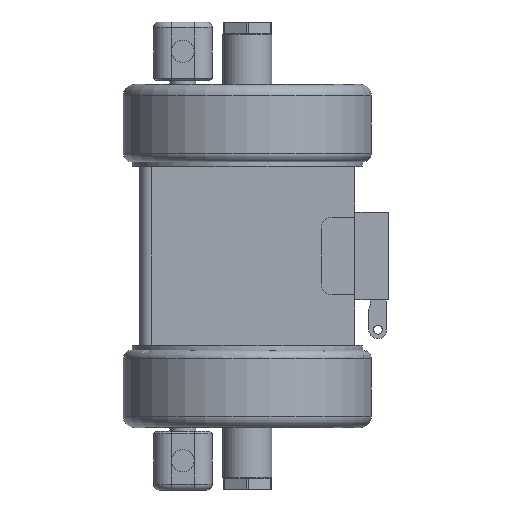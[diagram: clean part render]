
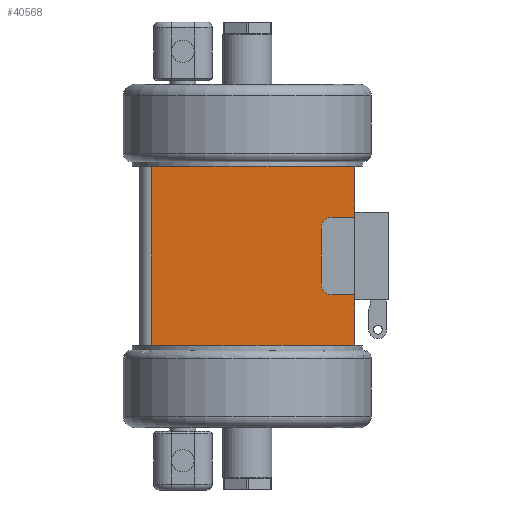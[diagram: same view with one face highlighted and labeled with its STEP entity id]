
A CAD part, left-side view. The second image highlights one B-rep face of the part: STEP entity #40568.
In plain terms, the highlighted planar face has unit normal (-1, 0, 0).
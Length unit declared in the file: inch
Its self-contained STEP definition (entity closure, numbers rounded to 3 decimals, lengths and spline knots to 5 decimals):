
#1214 = CARTESIAN_POINT ( 'NONE',  ( -2.382, -2.382, -0.8575 ) ) ;
#1216 = DIRECTION ( 'NONE',  ( 0., -1., 0. ) ) ;
#1333 = DIRECTION ( 'NONE',  ( 0., 0., -1. ) ) ;
#1352 = CARTESIAN_POINT ( 'NONE',  ( -2.382, 2.132, -1.974 ) ) ;
#1386 = CARTESIAN_POINT ( 'NONE',  ( -2.382, 2.382, -1.974 ) ) ;
#1394 = DIRECTION ( 'NONE',  ( 0., 1., 0. ) ) ;
#1395 = DIRECTION ( 'NONE',  ( 0., -1., 0. ) ) ;
#1399 = CARTESIAN_POINT ( 'NONE',  ( -2.382, -2.382, 1.974 ) ) ;
#2358 = CARTESIAN_POINT ( 'NONE',  ( -2.382, -2.382, 1.974 ) ) ;
#2377 = CARTESIAN_POINT ( 'NONE',  ( -2.382, -2.382, 0.975 ) ) ;
#2631 = AXIS2_PLACEMENT_3D ( 'NONE', #41956, #41957, #41959 ) ;
#2635 = AXIS2_PLACEMENT_3D ( 'NONE', #36319, #36320, #36321 ) ;
#8772 = VERTEX_POINT ( 'NONE', #20190 ) ;
#9652 = AXIS2_PLACEMENT_3D ( 'NONE', #19989, #19999, #20001 ) ;
#11043 = CARTESIAN_POINT ( 'NONE',  ( -2.382, -2.382, 1.974 ) ) ;
#11053 = DIRECTION ( 'NONE',  ( 0., 0., -1. ) ) ;
#11143 = CARTESIAN_POINT ( 'NONE',  ( -2.382, -2.382, 1.974 ) ) ;
#11145 = DIRECTION ( 'NONE',  ( 0., 0., -1. ) ) ;
#11389 = EDGE_CURVE ( 'NONE', #41510, #41521, #38798, .T. ) ;
#11409 = EDGE_CURVE ( 'NONE', #20890, #20895, #38838, .T. ) ;
#11893 = EDGE_CURVE ( 'NONE', #17158, #17161, #30491, .T. ) ;
#11957 = EDGE_CURVE ( 'NONE', #17163, #17165, #30600, .T. ) ;
#12013 = EDGE_CURVE ( 'NONE', #17156, #17153, #30690, .T. ) ;
#12023 = EDGE_CURVE ( 'NONE', #17156, #17154, #30709, .T. ) ;
#12049 = EDGE_CURVE ( 'NONE', #17152, #20895, #30738, .T. ) ;
#12060 = EDGE_CURVE ( 'NONE', #17164, #17163, #30755, .T. ) ;
#12085 = EDGE_CURVE ( 'NONE', #17164, #41521, #30802, .T. ) ;
#12088 = EDGE_CURVE ( 'NONE', #17165, #17158, #30805, .T. ) ;
#12091 = EDGE_CURVE ( 'NONE', #17159, #20890, #30807, .T. ) ;
#12148 = EDGE_CURVE ( 'NONE', #17152, #17150, #30900, .T. ) ;
#12183 = EDGE_CURVE ( 'NONE', #17161, #17159, #30955, .T. ) ;
#12216 = EDGE_CURVE ( 'NONE', #17154, #8772, #31003, .T. ) ;
#12230 = EDGE_CURVE ( 'NONE', #8772, #17150, #31022, .T. ) ;
#12234 = EDGE_CURVE ( 'NONE', #41510, #17153, #31032, .T. ) ;
#17139 = ORIENTED_EDGE ( 'NONE', *, *, #12183, .F. ) ;
#17140 = ORIENTED_EDGE ( 'NONE', *, *, #11893, .F. ) ;
#17141 = ORIENTED_EDGE ( 'NONE', *, *, #12088, .F. ) ;
#17142 = ORIENTED_EDGE ( 'NONE', *, *, #11957, .F. ) ;
#17143 = ORIENTED_EDGE ( 'NONE', *, *, #12060, .F. ) ;
#17144 = ORIENTED_EDGE ( 'NONE', *, *, #12085, .T. ) ;
#17145 = ORIENTED_EDGE ( 'NONE', *, *, #11389, .F. ) ;
#17146 = ORIENTED_EDGE ( 'NONE', *, *, #12234, .T. ) ;
#17150 = VERTEX_POINT ( 'NONE', #24909 ) ;
#17152 = VERTEX_POINT ( 'NONE', #24910 ) ;
#17153 = VERTEX_POINT ( 'NONE', #24918 ) ;
#17154 = VERTEX_POINT ( 'NONE', #24911 ) ;
#17156 = VERTEX_POINT ( 'NONE', #24921 ) ;
#17158 = VERTEX_POINT ( 'NONE', #24924 ) ;
#17159 = VERTEX_POINT ( 'NONE', #24926 ) ;
#17161 = VERTEX_POINT ( 'NONE', #24929 ) ;
#17163 = VERTEX_POINT ( 'NONE', #24931 ) ;
#17164 = VERTEX_POINT ( 'NONE', #24932 ) ;
#17165 = VERTEX_POINT ( 'NONE', #24933 ) ;
#19987 = PLANE ( 'NONE',  #9652 ) ;
#19989 = CARTESIAN_POINT ( 'NONE',  ( -2.382, 2.382, -1.974 ) ) ;
#19999 = DIRECTION ( 'NONE',  ( -1., 0., 0. ) ) ;
#20001 = DIRECTION ( 'NONE',  ( 0., 0., 1. ) ) ;
#20190 = CARTESIAN_POINT ( 'NONE',  ( -2.382, 2.132, -1.974 ) ) ;
#20890 = VERTEX_POINT ( 'NONE', #27275 ) ;
#20895 = VERTEX_POINT ( 'NONE', #27284 ) ;
#24909 = CARTESIAN_POINT ( 'NONE',  ( -2.382, 0.92556, -1.974 ) ) ;
#24910 = CARTESIAN_POINT ( 'NONE',  ( -2.382, -0.92556, -1.974 ) ) ;
#24911 = CARTESIAN_POINT ( 'NONE',  ( -2.382, 2.132, 1.974 ) ) ;
#24918 = CARTESIAN_POINT ( 'NONE',  ( -2.382, -0.92556, 1.974 ) ) ;
#24921 = CARTESIAN_POINT ( 'NONE',  ( -2.382, 0.92556, 1.974 ) ) ;
#24924 = CARTESIAN_POINT ( 'NONE',  ( -2.382, -1.632, -0.6075 ) ) ;
#24926 = CARTESIAN_POINT ( 'NONE',  ( -2.382, -2.382, -0.8575 ) ) ;
#24929 = CARTESIAN_POINT ( 'NONE',  ( -2.382, -1.882, -0.8575 ) ) ;
#24931 = CARTESIAN_POINT ( 'NONE',  ( -2.382, -1.882, 0.8575 ) ) ;
#24932 = CARTESIAN_POINT ( 'NONE',  ( -2.382, -2.382, 0.8575 ) ) ;
#24933 = CARTESIAN_POINT ( 'NONE',  ( -2.382, -1.632, 0.6075 ) ) ;
#27275 = CARTESIAN_POINT ( 'NONE',  ( -2.382, -2.382, -0.975 ) ) ;
#27284 = CARTESIAN_POINT ( 'NONE',  ( -2.382, -2.382, -1.974 ) ) ;
#30309 = FACE_OUTER_BOUND ( 'NONE', #40243, .T. ) ;
#30491 = CIRCLE ( 'NONE', #2631, 0.25 ) ;
#30600 = CIRCLE ( 'NONE', #2635, 0.25 ) ;
#30690 = LINE ( 'NONE', #36482, #30695 ) ;
#30695 = VECTOR ( 'NONE', #36525, 39.37008 ) ;
#30709 = LINE ( 'NONE', #36550, #30711 ) ;
#30711 = VECTOR ( 'NONE', #36549, 39.37008 ) ;
#30738 = LINE ( 'NONE', #36675, #30748 ) ;
#30748 = VECTOR ( 'NONE', #36688, 39.37008 ) ;
#30755 = LINE ( 'NONE', #36769, #30761 ) ;
#30761 = VECTOR ( 'NONE', #36771, 39.37008 ) ;
#30800 = VECTOR ( 'NONE', #36879, 39.37008 ) ;
#30802 = LINE ( 'NONE', #36852, #30800 ) ;
#30805 = LINE ( 'NONE', #36885, #30808 ) ;
#30807 = LINE ( 'NONE', #36880, #30814 ) ;
#30808 = VECTOR ( 'NONE', #36886, 39.37008 ) ;
#30814 = VECTOR ( 'NONE', #36891, 39.37008 ) ;
#30900 = LINE ( 'NONE', #37116, #30904 ) ;
#30904 = VECTOR ( 'NONE', #37125, 39.37008 ) ;
#30955 = LINE ( 'NONE', #1214, #30958 ) ;
#30958 = VECTOR ( 'NONE', #1216, 39.37008 ) ;
#31003 = LINE ( 'NONE', #1352, #31005 ) ;
#31005 = VECTOR ( 'NONE', #1333, 39.37008 ) ;
#31022 = LINE ( 'NONE', #1386, #31027 ) ;
#31027 = VECTOR ( 'NONE', #1395, 39.37008 ) ;
#31032 = LINE ( 'NONE', #1399, #31034 ) ;
#31034 = VECTOR ( 'NONE', #1394, 39.37008 ) ;
#32514 = ORIENTED_EDGE ( 'NONE', *, *, #12013, .F. ) ;
#32515 = ORIENTED_EDGE ( 'NONE', *, *, #12023, .T. ) ;
#32516 = ORIENTED_EDGE ( 'NONE', *, *, #12216, .T. ) ;
#32517 = ORIENTED_EDGE ( 'NONE', *, *, #12230, .T. ) ;
#32518 = ORIENTED_EDGE ( 'NONE', *, *, #12148, .F. ) ;
#32519 = ORIENTED_EDGE ( 'NONE', *, *, #12049, .T. ) ;
#32520 = ORIENTED_EDGE ( 'NONE', *, *, #11409, .F. ) ;
#32521 = ORIENTED_EDGE ( 'NONE', *, *, #12091, .F. ) ;
#36319 = CARTESIAN_POINT ( 'NONE',  ( -2.382, -1.882, 0.6075 ) ) ;
#36320 = DIRECTION ( 'NONE',  ( -1., 0., 0. ) ) ;
#36321 = DIRECTION ( 'NONE',  ( 0., 0., -1. ) ) ;
#36482 = CARTESIAN_POINT ( 'NONE',  ( -2.382, 2.382, 1.974 ) ) ;
#36525 = DIRECTION ( 'NONE',  ( 0., -1., 0. ) ) ;
#36549 = DIRECTION ( 'NONE',  ( 0., 1., 0. ) ) ;
#36550 = CARTESIAN_POINT ( 'NONE',  ( -2.382, -2.382, 1.974 ) ) ;
#36675 = CARTESIAN_POINT ( 'NONE',  ( -2.382, 2.382, -1.974 ) ) ;
#36688 = DIRECTION ( 'NONE',  ( 0., -1., 0. ) ) ;
#36769 = CARTESIAN_POINT ( 'NONE',  ( -2.382, -2.382, 0.8575 ) ) ;
#36771 = DIRECTION ( 'NONE',  ( 0., 1., 0. ) ) ;
#36852 = CARTESIAN_POINT ( 'NONE',  ( -2.382, -2.382, -1.974 ) ) ;
#36879 = DIRECTION ( 'NONE',  ( 0., 0., 1. ) ) ;
#36880 = CARTESIAN_POINT ( 'NONE',  ( -2.382, -2.382, 1.974 ) ) ;
#36885 = CARTESIAN_POINT ( 'NONE',  ( -2.382, -1.632, -0.6075 ) ) ;
#36886 = DIRECTION ( 'NONE',  ( 0., 0., -1. ) ) ;
#36891 = DIRECTION ( 'NONE',  ( 0., 0., -1. ) ) ;
#37116 = CARTESIAN_POINT ( 'NONE',  ( -2.382, 2.382, -1.974 ) ) ;
#37125 = DIRECTION ( 'NONE',  ( 0., 1., 0. ) ) ;
#38798 = LINE ( 'NONE', #11043, #38809 ) ;
#38809 = VECTOR ( 'NONE', #11053, 39.37008 ) ;
#38838 = LINE ( 'NONE', #11143, #38841 ) ;
#38841 = VECTOR ( 'NONE', #11145, 39.37008 ) ;
#40243 = EDGE_LOOP ( 'NONE', ( #17139, #17140, #17141, #17142, #17143, #17144, #17145, #17146, #32514, #32515, #32516, #32517, #32518, #32519, #32520, #32521 ) ) ;
#40568 = ADVANCED_FACE ( 'NONE', ( #30309 ), #19987, .T. ) ;
#41510 = VERTEX_POINT ( 'NONE', #2358 ) ;
#41521 = VERTEX_POINT ( 'NONE', #2377 ) ;
#41956 = CARTESIAN_POINT ( 'NONE',  ( -2.382, -1.882, -0.6075 ) ) ;
#41957 = DIRECTION ( 'NONE',  ( -1., 0., 0. ) ) ;
#41959 = DIRECTION ( 'NONE',  ( 0., 0., -1. ) ) ;
